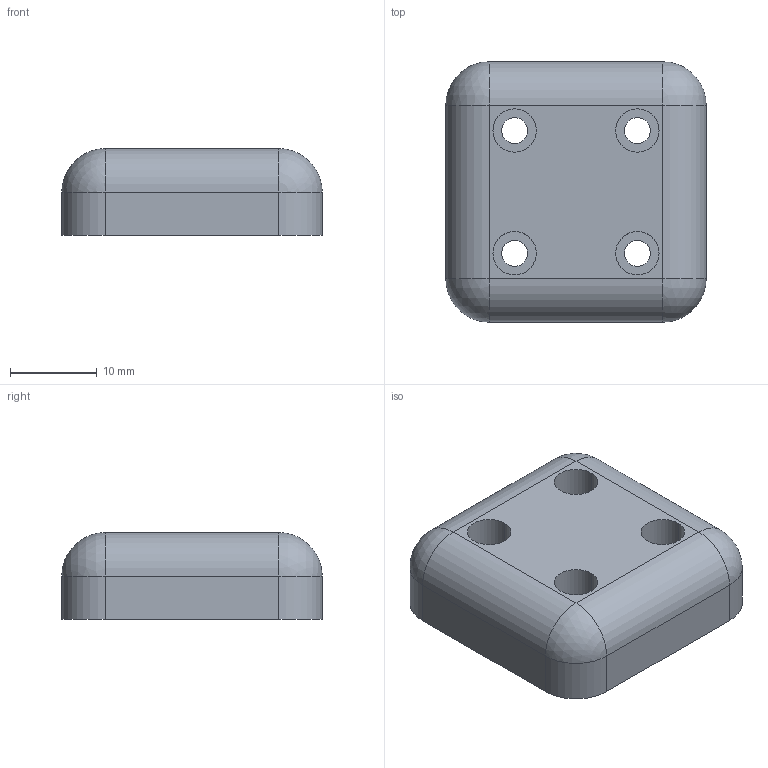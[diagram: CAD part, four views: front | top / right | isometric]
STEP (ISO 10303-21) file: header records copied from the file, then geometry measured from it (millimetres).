
FILE_DESCRIPTION (( 'STEP AP203' ), '1' );
FILE_NAME ('connection_part.STEP', '2020-03-04T09:23:52', ( '' ), ( '' ), 'SwSTEP 2.0', 'SolidWorks 2018', '' );
FILE_SCHEMA (( 'CONFIG_CONTROL_DESIGN' ));
Length unit declared in the file: millimetre
Products named in the file (1): connection_part
Bounding box: 30 x 30 x 10 mm (x, y, z)
Volume: 7691.2 mm3; surface area: 3067.1 mm2
Topology: 1 solids, 1 shells, 38 faces, 88 edges, 52 vertices
Faces by surface type: cylinder 24, plane 10, sphere 4
Entity records: 1153 total; most frequent: DIRECTION 210, CARTESIAN_POINT 175, ORIENTED_EDGE 168, AXIS2_PLACEMENT_3D 87, EDGE_CURVE 84, VERTEX_POINT 52, EDGE_LOOP 50, CIRCLE 48
